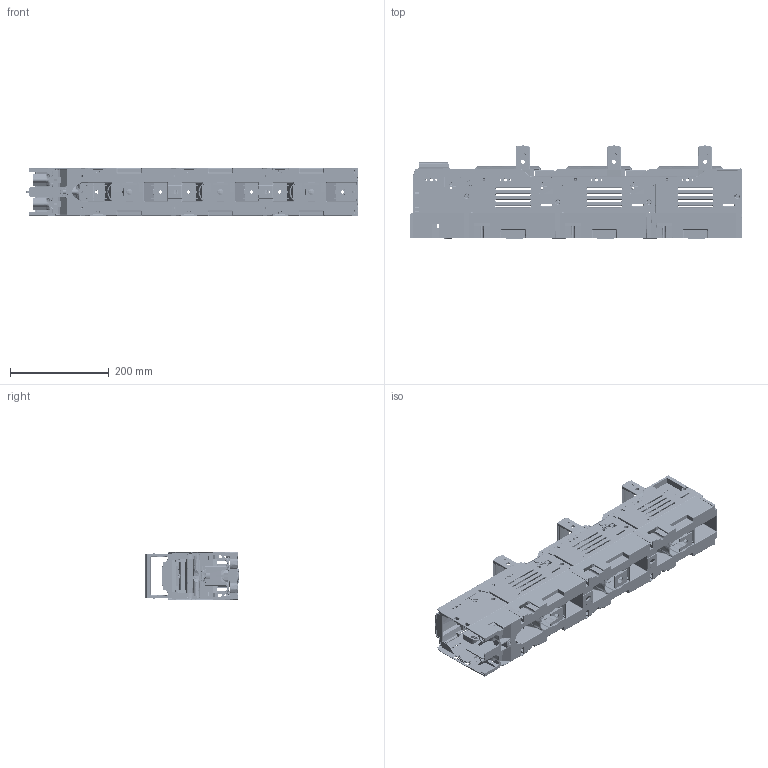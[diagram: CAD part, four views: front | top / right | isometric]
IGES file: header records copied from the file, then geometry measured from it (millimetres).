
Start section: SolidWorks IGES file using analytic representation for surfaces
Global section: file name: U:\14_RD\05_Technical_office\04_Office\Hrdinova\3D modely - IGES\Varius - FSD\FSD123-31-LW.IGS; native system: SolidWorks 2011; preprocessor: SolidWorks 2011; author: adhrja3; date: 170620.122754; units: millimetre
Bounding box: 674 x 189 x 99 mm (x, y, z)
Surface area: 1245268.2 mm2 (no closed solid volume)
Topology: 0 solids, 0 shells, 11579 faces, 89405 edges, 89187 vertices
Faces by surface type: bspline 7342, revolution 4237
